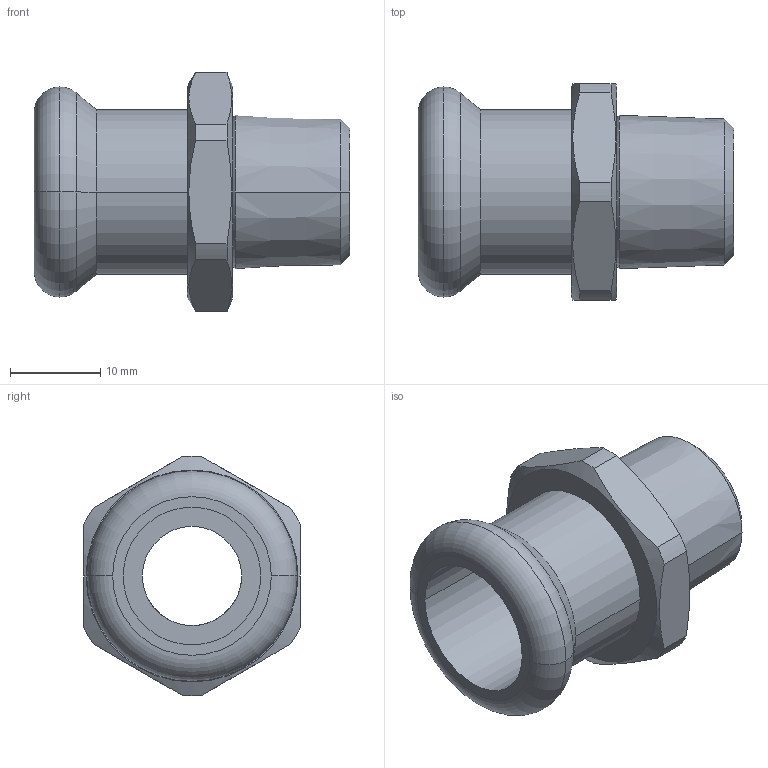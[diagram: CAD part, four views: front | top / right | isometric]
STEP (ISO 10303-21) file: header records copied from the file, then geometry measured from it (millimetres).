
FILE_DESCRIPTION(('CoCreate Modeling STEP Export'),'2;1');
FILE_NAME('C1405 15xR3-8.stp','2014-11-07T14:15:12',(''),(''),'CoCreate Modeling STEP processor for AP214 (Solid Model)','CoCreate Modeling 17.00A 17-Jun-2010 (C) Parametric Technology GmbH','');
FILE_SCHEMA(('AUTOMOTIVE_DESIGN { 1 0 10303 214 1 1 1 1 }'));
Length unit declared in the file: millimetre
Products named in the file (2): C1405_15xR3-8
Assembly tree (1 placements, depth 2):
  C1405_15xR3-8
    C1405_15xR3-8
Bounding box: 35 x 24 x 26.59 mm (x, y, z)
Volume: 5338.2 mm3; surface area: 4459.4 mm2
Topology: 1 solids, 1 shells, 39 faces, 96 edges, 62 vertices
Faces by surface type: cone 12, cylinder 12, plane 11, torus 4
Entity records: 1730 total; most frequent: CARTESIAN_POINT 868, ORIENTED_EDGE 192, DIRECTION 140, EDGE_CURVE 96, VERTEX_POINT 62, AXIS2_PLACEMENT_3D 55, EDGE_LOOP 44, FACE_OUTER_BOUND 39
